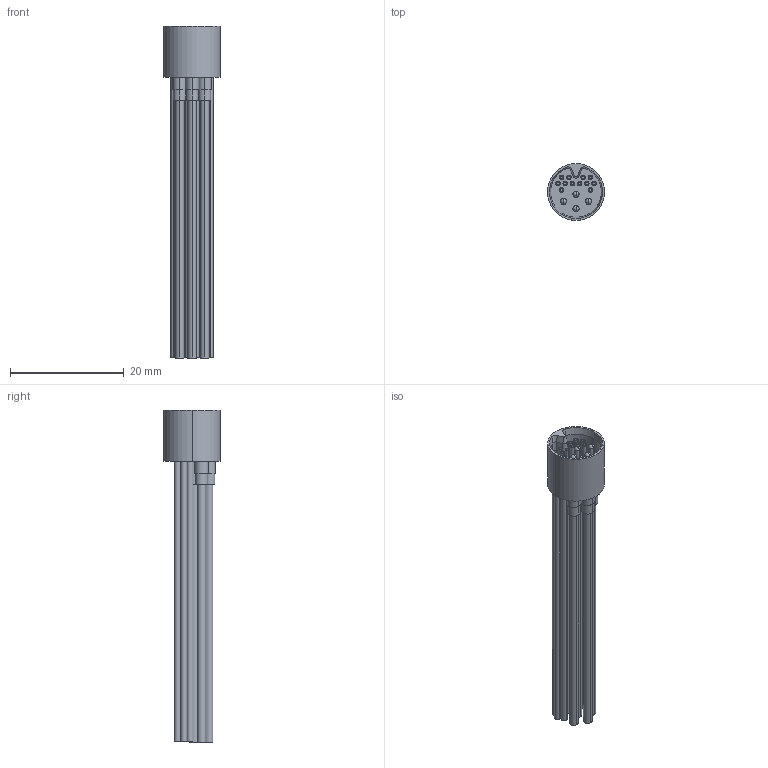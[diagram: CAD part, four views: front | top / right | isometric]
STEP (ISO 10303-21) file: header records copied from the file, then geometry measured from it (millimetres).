
FILE_DESCRIPTION (( 'STEP AP214' ), '1' );
FILE_NAME ('A90104-001 REV B.STEP', '2018-01-25T16:53:07', ( '' ), ( '' ), 'SwSTEP 2.0', 'SolidWorks 2017', '' );
FILE_SCHEMA (( 'AUTOMOTIVE_DESIGN' ));
Length unit declared in the file: inch
Products named in the file (1): A90104-001 REV_A
Bounding box: 10.03 x 10.03 x 58.5 mm (x, y, z)
Volume: 1395.2 mm3; surface area: 4003.9 mm2
Topology: 1 solids, 17 shells, 373 faces, 774 edges, 504 vertices
Faces by surface type: cylinder 232, plane 111, cone 14, torus 8, sphere 8
Entity records: 10082 total; most frequent: DIRECTION 2008, CARTESIAN_POINT 1628, ORIENTED_EDGE 1516, AXIS2_PLACEMENT_3D 876, EDGE_CURVE 758, CIRCLE 502, VERTEX_POINT 496, EDGE_LOOP 482
